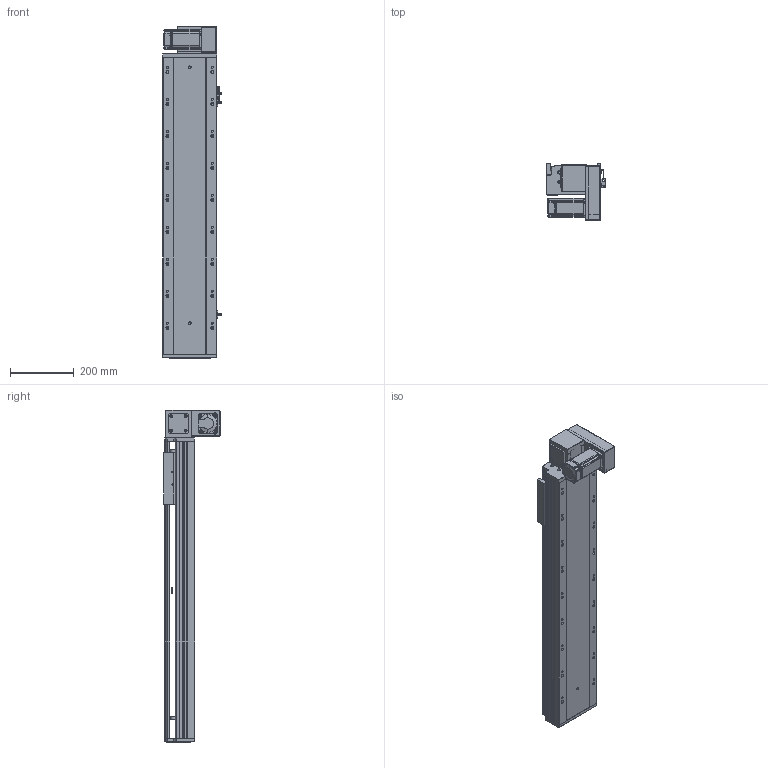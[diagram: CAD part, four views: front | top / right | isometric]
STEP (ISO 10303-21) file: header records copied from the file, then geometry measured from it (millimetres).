
FILE_DESCRIPTION (( 'STEP AP203' ), '1' );
FILE_NAME ('RY170-T-300-DR-P400W.SLDASM_650.step', '2021-03-01T08:23:02', ( '盈信电脑' ), ( '东莞市道滘镇水果街19号' ), 'SwSTEP 2.0', 'SolidWorks 2012', '' );
FILE_SCHEMA (( 'CONFIG_CONTROL_DESIGN' ));
Length unit declared in the file: millimetre
Products named in the file (19): RY170-T-300-DR-P400W.SLDASM_650; 15; 滅袉蝶18-10; RY170-T-呴雄粣揤踡啣; RY170-T蹟翐M4; RY170-T肮祭湍揤踡輸2; RY120-T主同步轮轴承压盖; RY170-T肮祭湍揤踡輸1; RY170-T肮祭謫裔啣; RY170同步轮电机安装板(400W); RY170翋肮祭謫釱; RY170肮祭謫萇儂欶; 覜茼ん672; RY170外置感应片(200共用）; RY170綴裔啣; RY170肮祭謫ヶ裔啣; RY170肮祭湍臏賑輸; RY170-T-300肮祭謫倰第裔啣-DR_650; RY170-T-300肮祭謫倰第菁釱-DR_650
Assembly tree (23 placements, depth 2):
  RY170-T-300-DR-P400W.SLDASM_650
    RY170-T-300肮祭謫倰第菁釱-DR_650
    RY170肮祭湍臏賑輸
    RY170-T-300肮祭謫倰第裔啣-DR_650
    RY170綴裔啣
    覜茼ん672  x3
    RY170外置感应片(200共用）
    RY170肮祭謫ヶ裔啣
    RY170翋肮祭謫釱
    RY170同步轮电机安装板(400W)
    RY170肮祭謫萇儂欶
    RY170-T肮祭湍揤踡輸1  x2
    RY170-T肮祭湍揤踡輸2  x2
    RY120-T主同步轮轴承压盖
    RY170-T肮祭謫裔啣
    RY170-T蹟翐M4
    滅袉蝶18-10  x2
    RY170-T-呴雄粣揤踡啣
    15
Bounding box: 183.7 x 178 x 1038 mm (x, y, z)
Volume: 5442060 mm3; surface area: 1830915.2 mm2
Topology: 23 solids, 23 shells, 2762 faces, 7714 edges, 4971 vertices
Faces by surface type: plane 1268, cylinder 1248, cone 216, bspline 30
Entity records: 83341 total; most frequent: CARTESIAN_POINT 18911, ORIENTED_EDGE 13176, DIRECTION 12840, EDGE_CURVE 6588, AXIS2_PLACEMENT_3D 4510, VERTEX_POINT 4327, LINE 3820, VECTOR 3820
